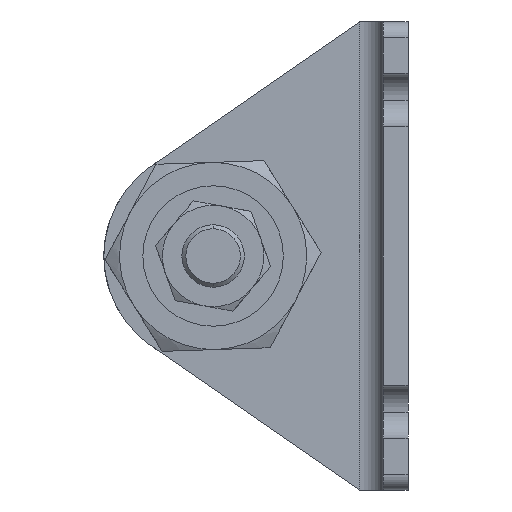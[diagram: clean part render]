
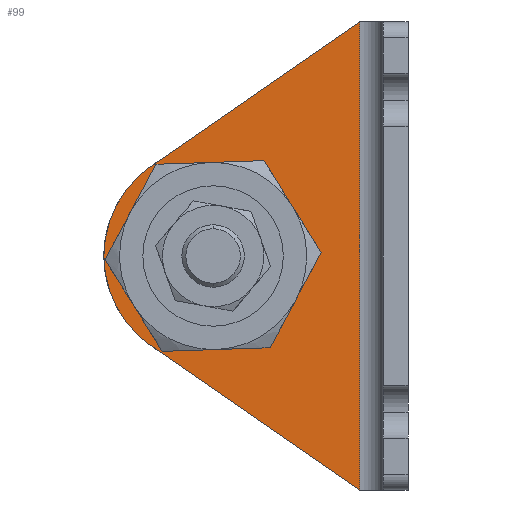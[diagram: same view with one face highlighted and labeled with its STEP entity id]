
A CAD part, left-side view. The second image highlights one B-rep face of the part: STEP entity #99.
In plain terms, the highlighted planar face has unit normal (-1, 0, 0) as drawn and (1, 0, 0) by its records, which use the part's own axes.
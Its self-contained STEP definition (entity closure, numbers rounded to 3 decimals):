
#99 = ADVANCED_FACE ( 'NONE', ( #3613, #1430 ), #3354, .T. ) ;
#175 = CIRCLE ( 'NONE', #2566, 14. ) ;
#257 = ORIENTED_EDGE ( 'NONE', *, *, #3909, .T. ) ;
#273 = VERTEX_POINT ( 'NONE', #3450 ) ;
#307 = EDGE_LOOP ( 'NONE', ( #1166, #1298 ) ) ;
#369 = CARTESIAN_POINT ( 'NONE',  ( 3.2, 32.956, -18.481 ) ) ;
#427 = VECTOR ( 'NONE', #3109, 1000. ) ;
#462 = CARTESIAN_POINT ( 'NONE',  ( 3.2, 25., -30. ) ) ;
#519 = CARTESIAN_POINT ( 'NONE',  ( 3.2, 32.956, -41.519 ) ) ;
#616 = LINE ( 'NONE', #2238, #427 ) ;
#700 = DIRECTION ( 'NONE',  ( 0., 1., 0. ) ) ;
#718 = DIRECTION ( 'NONE',  ( 1., 0., 0. ) ) ;
#730 = AXIS2_PLACEMENT_3D ( 'NONE', #997, #2888, #700 ) ;
#877 = EDGE_CURVE ( 'NONE', #3519, #3783, #1572, .T. ) ;
#885 = LINE ( 'NONE', #1393, #2324 ) ;
#961 = ORIENTED_EDGE ( 'NONE', *, *, #877, .F. ) ;
#997 = CARTESIAN_POINT ( 'NONE',  ( 3.2, 25., -30. ) ) ;
#1053 = DIRECTION ( 'NONE',  ( 0., 0.823, 0.568 ) ) ;
#1065 = EDGE_CURVE ( 'NONE', #3519, #2002, #616, .T. ) ;
#1095 = CARTESIAN_POINT ( 'NONE',  ( 3.2, 15.5, -30. ) ) ;
#1131 = AXIS2_PLACEMENT_3D ( 'NONE', #462, #2008, #1385 ) ;
#1147 = CARTESIAN_POINT ( 'NONE',  ( 3.2, 25., -30. ) ) ;
#1166 = ORIENTED_EDGE ( 'NONE', *, *, #1869, .F. ) ;
#1289 = EDGE_CURVE ( 'NONE', #3305, #2708, #2983, .T. ) ;
#1298 = ORIENTED_EDGE ( 'NONE', *, *, #1289, .F. ) ;
#1385 = DIRECTION ( 'NONE',  ( 0., 1., 0. ) ) ;
#1393 = CARTESIAN_POINT ( 'NONE',  ( 3.2, 4.169, -61.403 ) ) ;
#1402 = DIRECTION ( 'NONE',  ( 1., 0., 0. ) ) ;
#1430 = FACE_OUTER_BOUND ( 'NONE', #3604, .T. ) ;
#1538 = CARTESIAN_POINT ( 'NONE',  ( 3.2, 3.2, -60. ) ) ;
#1572 = LINE ( 'NONE', #4024, #3030 ) ;
#1837 = ORIENTED_EDGE ( 'NONE', *, *, #3147, .T. ) ;
#1869 = EDGE_CURVE ( 'NONE', #2708, #3305, #2195, .T. ) ;
#1880 = ORIENTED_EDGE ( 'NONE', *, *, #1065, .T. ) ;
#2002 = VERTEX_POINT ( 'NONE', #3076 ) ;
#2008 = DIRECTION ( 'NONE',  ( 1., 0., 0. ) ) ;
#2116 = DIRECTION ( 'NONE',  ( 0., 1., 0. ) ) ;
#2195 = CIRCLE ( 'NONE', #730, 9.5 ) ;
#2208 = EDGE_CURVE ( 'NONE', #3398, #273, #175, .T. ) ;
#2238 = CARTESIAN_POINT ( 'NONE',  ( 3.2, 6.2, -60. ) ) ;
#2324 = VECTOR ( 'NONE', #1053, 1000. ) ;
#2469 = DIRECTION ( 'NONE',  ( 0., 0.823, -0.568 ) ) ;
#2566 = AXIS2_PLACEMENT_3D ( 'NONE', #2897, #718, #3510 ) ;
#2708 = VERTEX_POINT ( 'NONE', #4013 ) ;
#2888 = DIRECTION ( 'NONE',  ( 1., 0., 0. ) ) ;
#2897 = CARTESIAN_POINT ( 'NONE',  ( 3.2, 25., -30. ) ) ;
#2983 = CIRCLE ( 'NONE', #3855, 9.5 ) ;
#3015 = CARTESIAN_POINT ( 'NONE',  ( 3.2, 6.2, 0. ) ) ;
#3030 = VECTOR ( 'NONE', #2469, 1000. ) ;
#3064 = CIRCLE ( 'NONE', #1131, 14. ) ;
#3076 = CARTESIAN_POINT ( 'NONE',  ( 3.2, 6.2, -60. ) ) ;
#3109 = DIRECTION ( 'NONE',  ( 0., 0., -1. ) ) ;
#3147 = EDGE_CURVE ( 'NONE', #273, #3783, #3064, .T. ) ;
#3305 = VERTEX_POINT ( 'NONE', #1095 ) ;
#3354 = PLANE ( 'NONE',  #3583 ) ;
#3366 = DIRECTION ( 'NONE',  ( 1., 0., 0. ) ) ;
#3398 = VERTEX_POINT ( 'NONE', #519 ) ;
#3421 = ORIENTED_EDGE ( 'NONE', *, *, #2208, .T. ) ;
#3450 = CARTESIAN_POINT ( 'NONE',  ( 3.2, 39., -30. ) ) ;
#3510 = DIRECTION ( 'NONE',  ( 0., 1., 0. ) ) ;
#3519 = VERTEX_POINT ( 'NONE', #3015 ) ;
#3572 = DIRECTION ( 'NONE',  ( 0., 1., 0. ) ) ;
#3583 = AXIS2_PLACEMENT_3D ( 'NONE', #1538, #3366, #2116 ) ;
#3604 = EDGE_LOOP ( 'NONE', ( #257, #3421, #1837, #961, #1880 ) ) ;
#3613 = FACE_BOUND ( 'NONE', #307, .T. ) ;
#3783 = VERTEX_POINT ( 'NONE', #369 ) ;
#3855 = AXIS2_PLACEMENT_3D ( 'NONE', #1147, #1402, #3572 ) ;
#3909 = EDGE_CURVE ( 'NONE', #2002, #3398, #885, .T. ) ;
#4013 = CARTESIAN_POINT ( 'NONE',  ( 3.2, 34.5, -30. ) ) ;
#4024 = CARTESIAN_POINT ( 'NONE',  ( 3.2, 32.226, -17.976 ) ) ;
